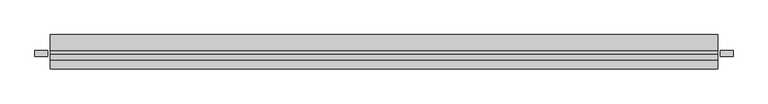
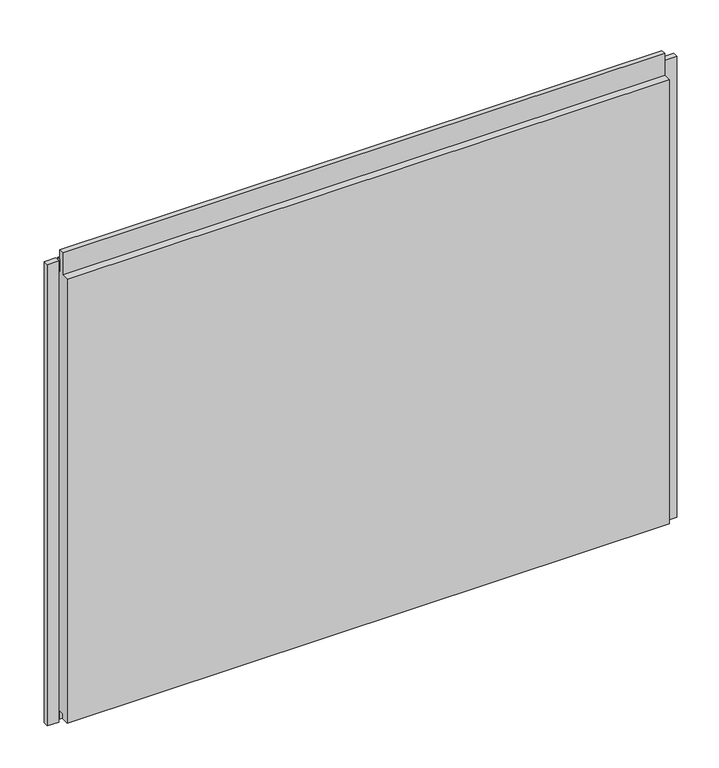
"""IFC4 building model written with IfcOpenShell, lengths in millimetres: plate geometry, Trimo_Qbiss Screen_Normal Panel-HORIZONTAL : HR - B."""

from ifc_helpers import new_model, si_unit, frame, origin, place, context, project, spatial, polyline, outline, extrude, source, transform, mapped, element, save


def plate_987dd367(model_context):
    return source(origin(), model_context, "Body", "SweptSolid", [
        extrude(outline(polyline([(-509.75, 121.5978162), (-509.75, 112.8978162), (-528.75, 112.8978162), (-528.75, 121.5978162), (-509.75, 121.5978162)])), frame((0.0, 0.0, -1.0), z_axis=(0.0, 0.0, 1.0), x_axis=(1.0, 0.0, 0.0)), (0.0, 0.0, 1.0), 787.95),
        extrude(outline(polyline([(469.25, 112.8978162), (469.25, 121.5978162), (488.25, 121.5978162), (488.25, 112.8978162), (469.25, 112.8978162)])), frame((0.0, 0.0, -1.0), z_axis=(0.0, 0.0, 1.0), x_axis=(1.0, 0.0, 0.0)), (0.0, 0.0, 1.0), 787.95),
        extrude(outline(polyline([(466.25, 121.0), (466.25, 116.0), (-506.75, 116.0), (-506.75, 121.0), (466.25, 121.0)])), frame((0.0, 0.0, 765.95), z_axis=(0.0, 0.0, 1.0), x_axis=(1.0, 0.0, 0.0)), (0.0, 0.0, 1.0), 21.0),
        extrude(outline(polyline([(116.0, 764.95), (145.0, 764.95), (145.0, 0.0), (117.0, 0.0), (117.0, 15.5), (107.0, 15.5), (107.0, 7.0), (95.0, 7.0), (95.0, 764.95), (108.0, 764.95), (108.0, 802.45), (116.0, 802.45), (116.0, 764.95)])), frame((-506.75, 0.0, 0.0), z_axis=(1.0, 0.0, 0.0), x_axis=(0.0, 1.0, 0.0)), (0.0, 0.0, 1.0), 973.0),
    ])


if __name__ == "__main__":
    model = new_model("IFC4")
    model_context = context("Model", 3, world=origin())
    ifc_project = project(units=[si_unit("LENGTHUNIT", "METRE", prefix="MILLI")], contexts=[model_context])
    site = spatial("IfcSite", under=ifc_project)
    building = spatial("IfcBuilding", under=site)
    placement = place(None, origin())
    plate_shape = plate_987dd367(model_context)
    element("IfcPlate", 1, ObjectType="Trimo_Qbiss Screen_Normal Panel-HORIZONTAL : HR - B", at=placement, inside=building, context=model_context, shape_type="MappedRepresentation", body=[
        mapped(plate_shape, transform((0.0, 0.0, 0.0), x_axis=(1.0, 0.0, 0.0), y_axis=(0.0, 1.0, 0.0), z_axis=(0.0, 0.0, 1.0))),
    ])
    save(model, "model.ifc")
